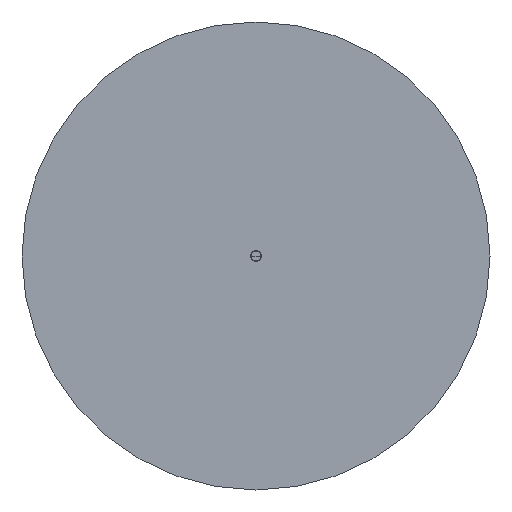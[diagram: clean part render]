
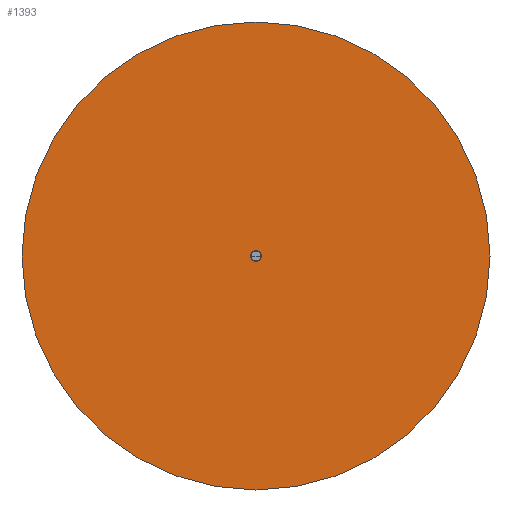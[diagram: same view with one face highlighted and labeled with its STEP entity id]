
A CAD part, front view. The second image highlights one B-rep face of the part: STEP entity #1393.
In plain terms, the highlighted planar face has unit normal (0, -1, 0).
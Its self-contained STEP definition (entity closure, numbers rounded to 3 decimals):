
#143=CARTESIAN_POINT('',(70.,-27.5,0.0));
#144=VERTEX_POINT('',#143);
#160=CARTESIAN_POINT('',(-70.,-27.5,0.));
#161=VERTEX_POINT('',#160);
#168=CARTESIAN_POINT('',(0.0,-27.5,0.0));
#169=DIRECTION('',(0.0,-1.0,0.0));
#170=DIRECTION('',(1.0,0.0,0.0));
#171=AXIS2_PLACEMENT_3D('',#168,#169,#170);
#172=CIRCLE('',#171,70.);
#173=EDGE_CURVE('',#144,#161,#172,.T.);
#704=CARTESIAN_POINT('',(1.632,-27.5,0.0));
#705=VERTEX_POINT('',#704);
#721=CARTESIAN_POINT('',(-1.632,-27.5,0.));
#722=VERTEX_POINT('',#721);
#729=CARTESIAN_POINT('',(0.0,-27.5,0.0));
#730=DIRECTION('',(0.0,-1.0,0.0));
#731=DIRECTION('',(1.0,0.0,0.0));
#732=AXIS2_PLACEMENT_3D('',#729,#730,#731);
#733=CIRCLE('',#732,1.632);
#734=EDGE_CURVE('',#722,#705,#733,.T.);
#953=CARTESIAN_POINT('',(0.0,-27.5,0.0));
#954=DIRECTION('',(0.0,-1.0,0.0));
#955=DIRECTION('',(1.0,0.0,0.0));
#956=AXIS2_PLACEMENT_3D('',#953,#954,#955);
#957=CIRCLE('',#956,1.632);
#958=EDGE_CURVE('',#705,#722,#957,.T.);
#1368=CARTESIAN_POINT('',(0.0,-27.5,0.0));
#1369=DIRECTION('',(0.0,-1.0,0.0));
#1370=DIRECTION('',(1.0,0.0,0.0));
#1371=AXIS2_PLACEMENT_3D('',#1368,#1369,#1370);
#1372=CIRCLE('',#1371,70.);
#1373=EDGE_CURVE('',#161,#144,#1372,.T.);
#1380=CARTESIAN_POINT('',(35.816,-27.5,0.0));
#1381=DIRECTION('',(0.0,-1.0,0.0));
#1382=DIRECTION('',(0.0,0.0,-1.0));
#1383=AXIS2_PLACEMENT_3D('',#1380,#1381,#1382);
#1384=PLANE('',#1383);
#1385=ORIENTED_EDGE('',*,*,#173,.T.);
#1386=ORIENTED_EDGE('',*,*,#1373,.T.);
#1387=EDGE_LOOP('',(#1385,#1386));
#1388=FACE_OUTER_BOUND('',#1387,.T.);
#1389=ORIENTED_EDGE('',*,*,#958,.F.);
#1390=ORIENTED_EDGE('',*,*,#734,.F.);
#1391=EDGE_LOOP('',(#1389,#1390));
#1392=FACE_BOUND('',#1391,.T.);
#1393=ADVANCED_FACE('',(#1388,#1392),#1384,.T.);
